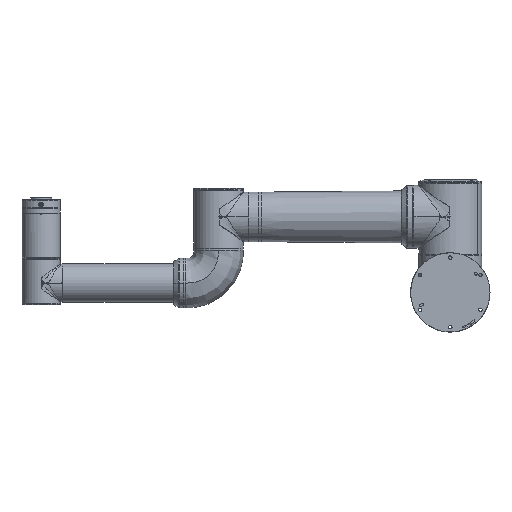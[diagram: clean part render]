
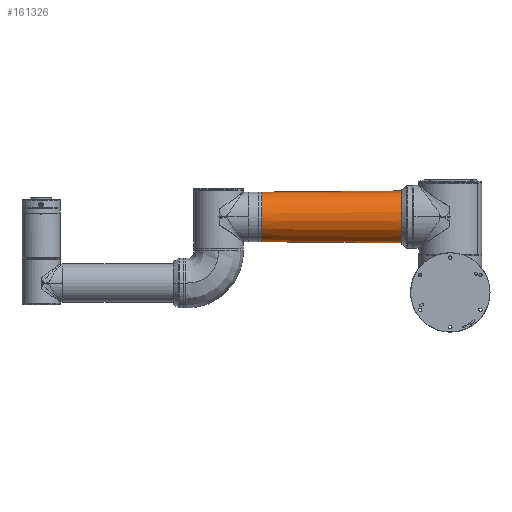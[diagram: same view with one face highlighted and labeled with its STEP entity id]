
A CAD part, front view. The second image highlights one B-rep face of the part: STEP entity #161326.
In plain terms, the highlighted conical face has half-angle 0.487 degrees and reference radius 78.85 mm.
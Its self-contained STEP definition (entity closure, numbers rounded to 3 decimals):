
#100 = DIRECTION ( 'NONE',  ( -1., -0.008, 0. ) ) ;
#120 = CIRCLE ( 'NONE', #68549, 78.85 ) ;
#9138 = CARTESIAN_POINT ( 'NONE',  ( 569.754, 102.6, 0. ) ) ;
#9711 = DIRECTION ( 'NONE',  ( 0., -1., 0. ) ) ;
#9931 = CARTESIAN_POINT ( 'NONE',  ( 121.003, 23.75, 0. ) ) ;
#12442 = CONICAL_SURFACE ( 'NONE', #169940, 78.85, 0.008 ) ;
#12677 = CARTESIAN_POINT ( 'NONE',  ( 569.754, 177.636, 0. ) ) ;
#13639 = DIRECTION ( 'NONE',  ( -1., 0.008, 0. ) ) ;
#14719 = CARTESIAN_POINT ( 'NONE',  ( 121.003, 181.45, 0. ) ) ;
#14893 = VECTOR ( 'NONE', #13639, 1000. ) ;
#17656 = CARTESIAN_POINT ( 'NONE',  ( 569.754, 27.564, 0. ) ) ;
#20816 = CARTESIAN_POINT ( 'NONE',  ( 121.003, 102.6, 0. ) ) ;
#25310 = DIRECTION ( 'NONE',  ( 0., -1., 0. ) ) ;
#29689 = VERTEX_POINT ( 'NONE', #14719 ) ;
#38238 = EDGE_LOOP ( 'NONE', ( #113125, #55416, #78563, #57627 ) ) ;
#41737 = LINE ( 'NONE', #119307, #14893 ) ;
#50960 = VERTEX_POINT ( 'NONE', #12677 ) ;
#55416 = ORIENTED_EDGE ( 'NONE', *, *, #135421, .T. ) ;
#57627 = ORIENTED_EDGE ( 'NONE', *, *, #160515, .F. ) ;
#60546 = DIRECTION ( 'NONE',  ( -1., 0., 0. ) ) ;
#68549 = AXIS2_PLACEMENT_3D ( 'NONE', #106111, #80105, #25310 ) ;
#78563 = ORIENTED_EDGE ( 'NONE', *, *, #115695, .T. ) ;
#80105 = DIRECTION ( 'NONE',  ( 1., 0., 0. ) ) ;
#84860 = VECTOR ( 'NONE', #100, 1000. ) ;
#85500 = DIRECTION ( 'NONE',  ( 0., -1., 0. ) ) ;
#94936 = EDGE_CURVE ( 'NONE', #165510, #50960, #158783, .T. ) ;
#106111 = CARTESIAN_POINT ( 'NONE',  ( 121.003, 102.6, 0. ) ) ;
#113125 = ORIENTED_EDGE ( 'NONE', *, *, #94936, .T. ) ;
#115695 = EDGE_CURVE ( 'NONE', #29689, #155493, #120, .T. ) ;
#119307 = CARTESIAN_POINT ( 'NONE',  ( 121.003, 181.45, 0. ) ) ;
#119981 = LINE ( 'NONE', #170414, #84860 ) ;
#135421 = EDGE_CURVE ( 'NONE', #50960, #29689, #41737, .T. ) ;
#139194 = DIRECTION ( 'NONE',  ( -1., 0., 0. ) ) ;
#140566 = FACE_OUTER_BOUND ( 'NONE', #38238, .T. ) ;
#140678 = AXIS2_PLACEMENT_3D ( 'NONE', #9138, #60546, #9711 ) ;
#155493 = VERTEX_POINT ( 'NONE', #9931 ) ;
#158783 = CIRCLE ( 'NONE', #140678, 75.036 ) ;
#160515 = EDGE_CURVE ( 'NONE', #165510, #155493, #119981, .T. ) ;
#161326 = ADVANCED_FACE ( 'NONE', ( #140566 ), #12442, .T. ) ;
#165510 = VERTEX_POINT ( 'NONE', #17656 ) ;
#169940 = AXIS2_PLACEMENT_3D ( 'NONE', #20816, #139194, #85500 ) ;
#170414 = CARTESIAN_POINT ( 'NONE',  ( 121.003, 23.75, 0. ) ) ;
